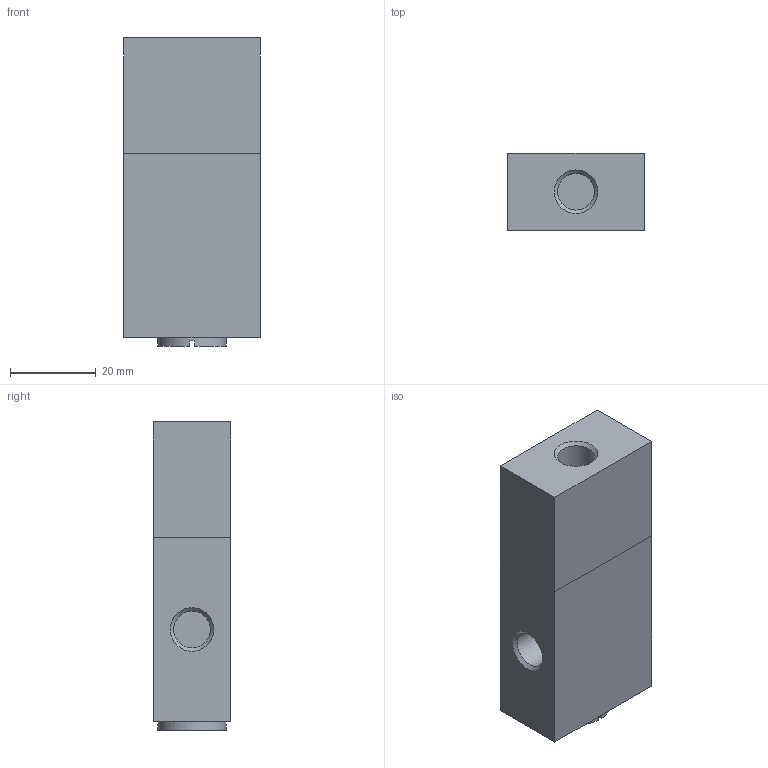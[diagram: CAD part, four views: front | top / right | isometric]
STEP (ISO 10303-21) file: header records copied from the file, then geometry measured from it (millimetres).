
FILE_DESCRIPTION((''),'2;1');
FILE_NAME('I:\Area Tecnica\Documenti\A-Roberto\_Inventor\Rev.Librerie\700\NEW\718_32_11_1.stp','2008-02-25T14:14:12',('rivolro1'),(''),'Autodesk Inventor 2008','Autodesk Inventor 2008','');
FILE_SCHEMA(('AUTOMOTIVE_DESIGN { 1 0 10303 214 1 1 1 1 }'));
Length unit declared in the file: millimetre
Products named in the file (1): 718_32_11_1
Bounding box: 32 x 18 x 72 mm (x, y, z)
Volume: 38747.4 mm3; surface area: 9133.1 mm2
Topology: 1 solids, 1 shells, 29 faces, 59 edges, 38 vertices
Faces by surface type: plane 16, bspline 12, cylinder 1
Full cylindrical faces by diameter (mm): 16 x1
Entity records: 866 total; most frequent: CARTESIAN_POINT 264, DIRECTION 102, ORIENTED_EDGE 98, EDGE_CURVE 49, EDGE_LOOP 44, VERTEX_POINT 37, AXIS2_PLACEMENT_3D 35, VECTOR 32
